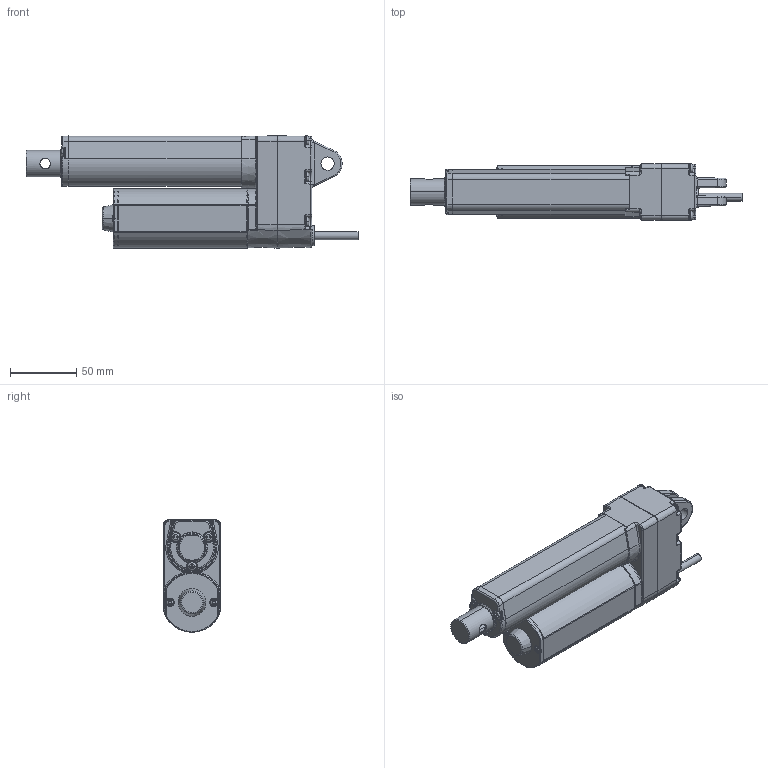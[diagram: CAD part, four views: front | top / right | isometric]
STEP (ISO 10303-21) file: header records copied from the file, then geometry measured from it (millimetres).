
FILE_DESCRIPTION((''),'2;1');
FILE_NAME('ASM0005_ASM','2022-01-24T',('USER'),(''),'PRO/ENGINEER BY PARAMETRIC TECHNOLOGY CORPORATION, 2008090','PRO/ENGINEER BY PARAMETRIC TECHNOLOGY CORPORATION, 2008090','');
FILE_SCHEMA(('CONFIG_CONTROL_DESIGN'));
Products named in the file (3): PRT0002; PRT0003; ASM0005_ASM
Assembly tree (2 placements, depth 2):
  ASM0005_ASM
    PRT0002
    PRT0003
Bounding box: 251.19 x 42.99 x 85 mm (x, y, z)
Surface area: 152496.3 mm2 (no closed solid volume)
Topology: 0 solids, 16 shells, 2430 faces, 6772 edges, 4408 vertices
Faces by surface type: plane 854, cylinder 652, cone 436, torus 241, bspline 235, sphere 11, extrusion 1
Entity records: 95772 total; most frequent: CARTESIAN_POINT 34561, ORIENTED_EDGE 13484, DIRECTION 12330, EDGE_CURVE 6763, AXIS2_PLACEMENT_3D 4767, VERTEX_POINT 4409, VECTOR 2796, LINE 2795
